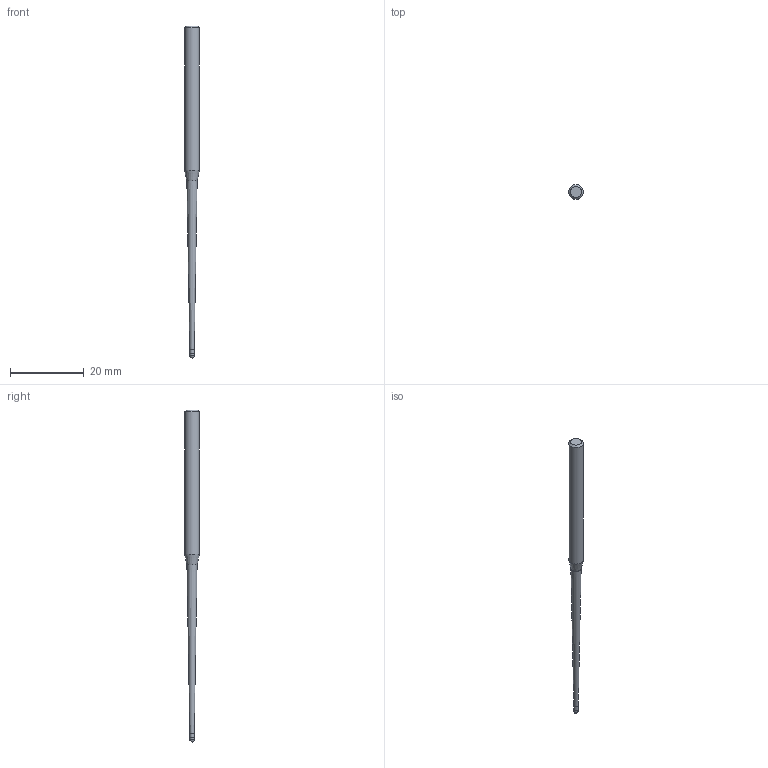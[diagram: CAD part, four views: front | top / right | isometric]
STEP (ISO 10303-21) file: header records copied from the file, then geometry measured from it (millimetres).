
FILE_DESCRIPTION((''),'2;1');
FILE_NAME('C:\Users\nsx150\AppData\Local\Temp\Mastercam 2021\SNAKH10GOD\TEMP.step','2021-10-21T13:32:37',(''),(''),'STEP Write','Mastercam 2021 ... CNC Software, Inc.','');
FILE_SCHEMA(('AUTOMOTIVE_DESIGN'));
Length unit declared in the file: millimetre
Products named in the file (1): None
Bounding box: 4 x 4 x 90 mm (x, y, z)
Volume: 668.2 mm3; surface area: 827.6 mm2
Topology: 2 solids, 2 shells, 10 faces, 16 edges, 9 vertices
Faces by surface type: plane 3, cylinder 3, cone 3, sphere 1
Full cylindrical faces by diameter (mm): 1.185 x1, 1.2 x1, 4 x1
Entity records: 232 total; most frequent: DIRECTION 40, CARTESIAN_POINT 28, AXIS2_PLACEMENT_3D 20, ORIENTED_EDGE 16, EDGE_LOOP 16, STYLED_ITEM 13, ADVANCED_FACE 10, FACE_BOUND 9
